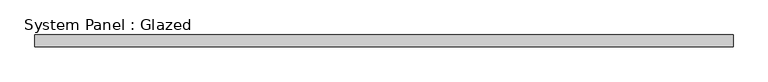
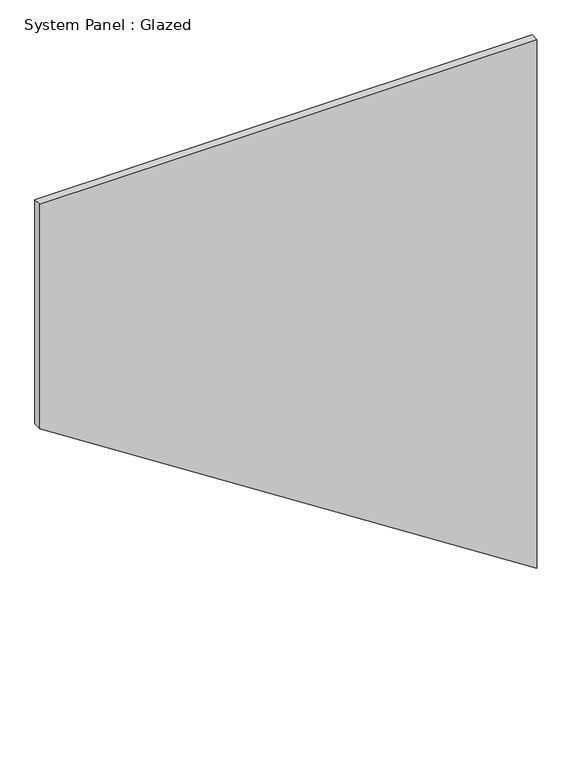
"""IFC4 building model written with IfcOpenShell, lengths in millimetres: plate geometry, System Panel : Glazed."""

import ifcopenshell
import ifcopenshell.guid

model = None  # the IFC model being written
_history = None  # IfcOwnerHistory: only IFC2X3 demands one
_inside = {}  # id of a spatial element -> (the spatial element, [elements in it])
_under = {}  # id of a project, library or spatial element -> (it, [spatial elements below it])
_declared = {}  # id of a project -> (the project, [libraries it declares])
_typed = {}  # id of a type object -> (the type object, [elements of that type])
_made_of = {}  # id of a material, layer set ... -> (it, [elements and type objects made of it])


def new_model(schema):
    """Start an empty IFC model of exactly this schema.

    Asked for "IFC4X3", IfcOpenShell would pick the latest addendum, in which some entities
    have other attributes; the version numbers below select the first issue.
    IFC2X3 requires an IfcOwnerHistory on every rooted entity: one is made here for all.
    """
    global model, _history
    if schema == "IFC4X3":
        model = ifcopenshell.file(schema_version=(4, 3, 0, 0))
    else:
        model = ifcopenshell.file(schema=schema)
    _inside.clear()
    _under.clear()
    _declared.clear()
    _typed.clear()
    _made_of.clear()
    _history = None
    if model.schema == "IFC2X3":
        org = make("IfcOrganization", Name="unknown")
        user = make(
            "IfcPersonAndOrganization",
            ThePerson=make("IfcPerson", FamilyName="unknown"),
            TheOrganization=org,
        )
        app = make(
            "IfcApplication",
            ApplicationDeveloper=org,
            Version="unknown",
            ApplicationFullName="unknown",
            ApplicationIdentifier="unknown",
        )
        _history = make(
            "IfcOwnerHistory",
            OwningUser=user,
            OwningApplication=app,
            ChangeAction="ADDED",
            CreationDate=0,
        )
    return model


def make(cls, **values):
    """One entity of the class cls with the attributes given. An attribute that is None is left unset."""
    return model.create_entity(
        cls, **{name: value for name, value in values.items() if value is not None}
    )


def rooted(cls, **values):
    """An entity with a GlobalId (a new one), such as an element, a storey or a relation."""
    return make(cls, GlobalId=ifcopenshell.guid.new(), OwnerHistory=_history, **values)


def si_unit(unit_type, name, prefix=None):
    """IfcSIUnit, for example si_unit("LENGTHUNIT", "METRE", prefix="MILLI")."""
    return make("IfcSIUnit", UnitType=unit_type, Prefix=prefix, Name=name)


def assignment(units):
    """IfcUnitAssignment: the units of a project."""
    return None if units is None else make("IfcUnitAssignment", Units=units)


def point(xyz):
    """IfcCartesianPoint."""
    return None if xyz is None else make("IfcCartesianPoint", Coordinates=xyz)


def direction(xyz):
    """IfcDirection."""
    return None if xyz is None else make("IfcDirection", DirectionRatios=xyz)


def frame(location, z_axis=None, x_axis=None):
    """IfcAxis2Placement3D, a coordinate frame: its origin and axes. An axis left out is left unset."""
    return make(
        "IfcAxis2Placement3D",
        Location=point(location),
        Axis=direction(z_axis),
        RefDirection=direction(x_axis),
    )


def origin():
    """The frame at (0, 0, 0) with its axes left unset."""
    return frame((0.0, 0.0, 0.0))


def place(relative_to, where):
    """IfcLocalPlacement: puts the frame where relative to a parent placement (None: the world)."""
    return make(
        "IfcLocalPlacement", PlacementRelTo=relative_to, RelativePlacement=where
    )


def context(
    kind, dimensions, precision=None, world=None, true_north=None, identifier=None
):
    """IfcGeometricRepresentationContext, for example the 3D "Model" context."""
    return make(
        "IfcGeometricRepresentationContext",
        ContextIdentifier=identifier,
        ContextType=kind,
        CoordinateSpaceDimension=dimensions,
        Precision=precision,
        WorldCoordinateSystem=world,
        TrueNorth=true_north,
    )


def project(units=None, contexts=None):
    """IfcProject with its units and contexts."""
    return rooted(
        "IfcProject",
        Name="project",
        RepresentationContexts=contexts,
        UnitsInContext=assignment(units),
    )


def spatial(cls, under=None, at=None, **own):
    """A site, building, storey or space (cls), placed at a placement, below another one or the project."""
    s = rooted(cls, ObjectPlacement=at, **own)
    if under is not None:
        _under.setdefault(under.id(), (under, []))[1].append(s)
    return s


def polyline(points):
    """IfcPolyline through the points."""
    return make("IfcPolyline", Points=[point(p) for p in points])


def outline(outer, holes=None, kind="AREA"):
    """IfcArbitraryClosedProfileDef: a profile drawn as a closed curve; with holes, ...WithVoids."""
    if holes is None:
        return make("IfcArbitraryClosedProfileDef", ProfileType=kind, OuterCurve=outer)
    return make(
        "IfcArbitraryProfileDefWithVoids",
        ProfileType=kind,
        OuterCurve=outer,
        InnerCurves=holes,
    )


def extrude(swept, where, along, depth):
    """IfcExtrudedAreaSolid: the profile swept, set in the frame where, extruded along a direction by depth."""
    return make(
        "IfcExtrudedAreaSolid",
        SweptArea=swept,
        Position=where,
        ExtrudedDirection=direction(along),
        Depth=depth,
    )


def shape(context_of_items, identifier, shape_type, items):
    """IfcShapeRepresentation: the items that make up one representation, for example the "Body"."""
    return make(
        "IfcShapeRepresentation",
        ContextOfItems=context_of_items,
        RepresentationIdentifier=identifier,
        RepresentationType=shape_type,
        Items=items,
    )


def source(mapping_origin, context_of_items, identifier, shape_type, items):
    """IfcRepresentationMap: a shape defined once, which mapped items show again and again."""
    return make(
        "IfcRepresentationMap",
        MappingOrigin=mapping_origin,
        MappedRepresentation=shape(context_of_items, identifier, shape_type, items),
    )


def transform(
    local_origin,
    x_axis=None,
    y_axis=None,
    z_axis=None,
    scale=None,
    scale2=None,
    scale3=None,
    uniform=True,
):
    """IfcCartesianTransformationOperator3D, or its non-uniform kind. x_axis, y_axis, z_axis: its Axis1, 2, 3."""
    if uniform:
        return make(
            "IfcCartesianTransformationOperator3D",
            Axis1=direction(x_axis),
            Axis2=direction(y_axis),
            LocalOrigin=point(local_origin),
            Scale=scale,
            Axis3=direction(z_axis),
        )
    return make(
        "IfcCartesianTransformationOperator3DnonUniform",
        Axis1=direction(x_axis),
        Axis2=direction(y_axis),
        LocalOrigin=point(local_origin),
        Scale=scale,
        Axis3=direction(z_axis),
        Scale2=scale2,
        Scale3=scale3,
    )


def mapped(mapping_source, mapping_target):
    """IfcMappedItem: shows the shape of a source again, moved by a transform."""
    return make(
        "IfcMappedItem", MappingSource=mapping_source, MappingTarget=mapping_target
    )


def made_of(thing, what):
    """Note that an element or type object is made of a material, layer set ...; save() writes the relation."""
    if what is not None:
        _made_of.setdefault(what.id(), (what, []))[1].append(thing)
    return thing


def element(
    cls,
    number,
    at=None,
    inside=None,
    cuts=None,
    type_object=None,
    material=None,
    context=None,
    identifier="Body",
    shape_type=None,
    held_by="IfcProductDefinitionShape",
    body=None,
    shapes=None,
    **own,
):
    """One element of the class cls, such as IfcWall. Its Tag is "e" and its number.

    at: its placement. inside: the storey or other place that contains it. cuts: it is an
    opening in that element (IfcRelVoidsElement). A single representation is given by context,
    identifier, shape_type and body (its items); several are given by shapes. held_by: the class
    of the entity that holds the representations. save() writes the other relations.
    """
    e = rooted(cls, Tag="e%d" % number, ObjectPlacement=at, **own)
    if body is not None:
        shapes = [shape(context, identifier, shape_type, body)]
    if shapes is not None:
        e.Representation = make(held_by, Representations=shapes)
    if inside is not None:
        _inside.setdefault(inside.id(), (inside, []))[1].append(e)
    if cuts is not None:
        rooted(
            "IfcRelVoidsElement", RelatingBuildingElement=cuts, RelatedOpeningElement=e
        )
    if type_object is not None:
        _typed.setdefault(type_object.id(), (type_object, []))[1].append(e)
    return made_of(e, material)


def aggregate(whole, parts):
    """IfcRelAggregates: a whole, such as a stair, and the parts it consists of."""
    return rooted("IfcRelAggregates", RelatingObject=whole, RelatedObjects=parts)


def save(model, path):
    """Write the relations noted so far, then the file.

    IfcRelAggregates (storeys below a building ...), IfcRelContainedInSpatialStructure (elements
    in a storey), IfcRelDefinesByType, IfcRelAssociatesMaterial and IfcRelDeclares: one each for
    every whole, place, type object, material and project.
    """
    for whole, parts in _under.values():
        aggregate(whole, parts)
    for where, things in _inside.values():
        rooted(
            "IfcRelContainedInSpatialStructure",
            RelatedElements=things,
            RelatingStructure=where,
        )
    for kind, things in _typed.values():
        rooted("IfcRelDefinesByType", RelatedObjects=things, RelatingType=kind)
    for what, things in _made_of.values():
        rooted("IfcRelAssociatesMaterial", RelatedObjects=things, RelatingMaterial=what)
    for by, libraries in _declared.values():
        rooted("IfcRelDeclares", RelatingContext=by, RelatedDefinitions=libraries)
    model.write(path)


def system_panel_glazed_069c20c8(model_context):
    return source(origin(), model_context, "Body", "SweptSolid", [
        extrude(outline(polyline([(952.4450444, -735.8695652), (0.0, 735.8695652), (1654.870561, 735.8695652), (1654.870561, -735.8695652), (952.4450444, -735.8695652)])), frame((0.0, 24.5, 0.0), z_axis=(0.0, 1.0, 0.0), x_axis=(0.0, 0.0, 1.0)), (0.0, 0.0, 1.0), 25.0),
    ])


if __name__ == "__main__":
    model = new_model("IFC4")
    model_context = context("Model", 3, world=origin())
    ifc_project = project(units=[si_unit("LENGTHUNIT", "METRE", prefix="MILLI")], contexts=[model_context])
    site = spatial("IfcSite", under=ifc_project)
    building = spatial("IfcBuilding", under=site)
    placement = place(None, origin())
    system_panel_glazed_shape = system_panel_glazed_069c20c8(model_context)
    element("IfcPlate", 1, ObjectType="System Panel : Glazed", at=placement, inside=building, context=model_context, shape_type="MappedRepresentation", body=[
        mapped(system_panel_glazed_shape, transform((0.0, 0.0, 0.0), x_axis=(1.0, 0.0, 0.0), y_axis=(0.0, 1.0, 0.0), z_axis=(0.0, 0.0, 1.0))),
    ])
    save(model, "model.ifc")
